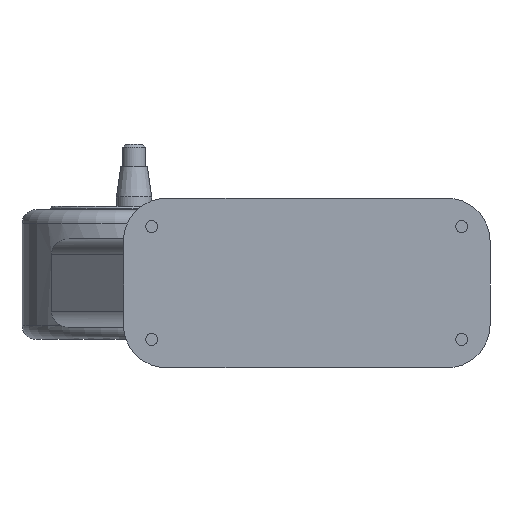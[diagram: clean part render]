
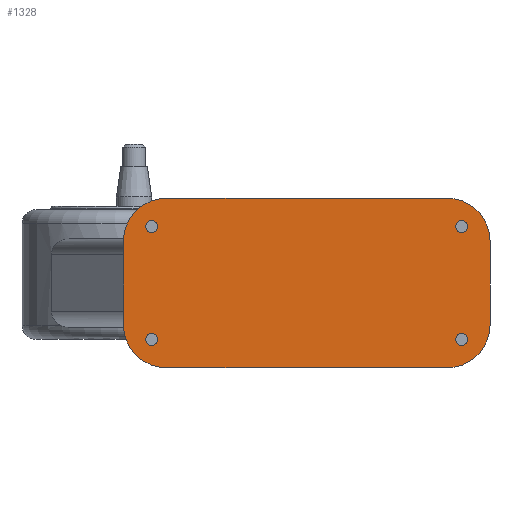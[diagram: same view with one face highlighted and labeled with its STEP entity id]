
A CAD part, front view. The second image highlights one B-rep face of the part: STEP entity #1328.
In plain terms, the highlighted planar face has unit normal (0, -1, 0).
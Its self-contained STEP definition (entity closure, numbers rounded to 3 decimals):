
#11 = ORIENTED_EDGE ( 'NONE', *, *, #2284, .T. ) ;
#15 = ORIENTED_EDGE ( 'NONE', *, *, #2022, .F. ) ;
#18 = VECTOR ( 'NONE', #1616, 1000. ) ;
#38 = ORIENTED_EDGE ( 'NONE', *, *, #347, .F. ) ;
#52 = CARTESIAN_POINT ( 'NONE',  ( 127.334, 0., 30. ) ) ;
#66 = CARTESIAN_POINT ( 'NONE',  ( -108.416, 0., 40. ) ) ;
#71 = LINE ( 'NONE', #363, #18 ) ;
#108 = LINE ( 'NONE', #919, #1520 ) ;
#117 = AXIS2_PLACEMENT_3D ( 'NONE', #1997, #934, #2175 ) ;
#152 = DIRECTION ( 'NONE',  ( 1., 0., 0. ) ) ;
#171 = EDGE_CURVE ( 'NONE', #337, #1251, #1357, .T. ) ;
#176 = CARTESIAN_POINT ( 'NONE',  ( -116.916, 0., -40. ) ) ;
#189 = FACE_BOUND ( 'NONE', #335, .T. ) ;
#192 = DIRECTION ( 'NONE',  ( 0., -1., 0. ) ) ;
#194 = EDGE_CURVE ( 'NONE', #2150, #1552, #350, .T. ) ;
#212 = CIRCLE ( 'NONE', #610, 4.25 ) ;
#311 = CARTESIAN_POINT ( 'NONE',  ( 111.584, 0., -40. ) ) ;
#325 = CIRCLE ( 'NONE', #1301, 4.25 ) ;
#335 = EDGE_LOOP ( 'NONE', ( #921, #513 ) ) ;
#337 = VERTEX_POINT ( 'NONE', #2192 ) ;
#347 = EDGE_CURVE ( 'NONE', #1879, #1087, #490, .T. ) ;
#350 = CIRCLE ( 'NONE', #1957, 4.25 ) ;
#358 = CARTESIAN_POINT ( 'NONE',  ( 97.334, 0., -60. ) ) ;
#363 = CARTESIAN_POINT ( 'NONE',  ( -132.666, 0., -60. ) ) ;
#374 = EDGE_CURVE ( 'NONE', #1542, #1367, #2274, .T. ) ;
#390 = DIRECTION ( 'NONE',  ( 0., -1., 0. ) ) ;
#391 = EDGE_LOOP ( 'NONE', ( #484, #1846 ) ) ;
#425 = CARTESIAN_POINT ( 'NONE',  ( 107.334, 0., -40. ) ) ;
#484 = ORIENTED_EDGE ( 'NONE', *, *, #1608, .F. ) ;
#490 = CIRCLE ( 'NONE', #1436, 4.25 ) ;
#496 = AXIS2_PLACEMENT_3D ( 'NONE', #1242, #192, #1424 ) ;
#505 = ORIENTED_EDGE ( 'NONE', *, *, #1390, .T. ) ;
#509 = DIRECTION ( 'NONE',  ( 0., 0., -1. ) ) ;
#513 = ORIENTED_EDGE ( 'NONE', *, *, #1002, .F. ) ;
#532 = PLANE ( 'NONE',  #622 ) ;
#543 = VERTEX_POINT ( 'NONE', #358 ) ;
#551 = EDGE_LOOP ( 'NONE', ( #505, #2285, #2293, #11, #1842, #901, #928, #1815 ) ) ;
#552 = CARTESIAN_POINT ( 'NONE',  ( -116.916, 0., 40. ) ) ;
#569 = CIRCLE ( 'NONE', #935, 4.25 ) ;
#580 = CARTESIAN_POINT ( 'NONE',  ( -112.666, 0., -40. ) ) ;
#584 = EDGE_CURVE ( 'NONE', #1174, #1012, #108, .T. ) ;
#593 = DIRECTION ( 'NONE',  ( 0., -1., 0. ) ) ;
#599 = CIRCLE ( 'NONE', #496, 30. ) ;
#608 = DIRECTION ( 'NONE',  ( 1., 0., 0. ) ) ;
#610 = AXIS2_PLACEMENT_3D ( 'NONE', #1462, #390, #1633 ) ;
#619 = DIRECTION ( 'NONE',  ( 0., -1., 0. ) ) ;
#622 = AXIS2_PLACEMENT_3D ( 'NONE', #1414, #1775, #712 ) ;
#659 = FACE_BOUND ( 'NONE', #1732, .T. ) ;
#677 = CARTESIAN_POINT ( 'NONE',  ( -132.666, 0., -30. ) ) ;
#681 = VERTEX_POINT ( 'NONE', #1943 ) ;
#712 = DIRECTION ( 'NONE',  ( -1., 0., 0. ) ) ;
#724 = CARTESIAN_POINT ( 'NONE',  ( -112.666, 0., 40. ) ) ;
#739 = AXIS2_PLACEMENT_3D ( 'NONE', #724, #1972, #907 ) ;
#742 = CARTESIAN_POINT ( 'NONE',  ( 127.334, 0., -30. ) ) ;
#749 = AXIS2_PLACEMENT_3D ( 'NONE', #1058, #2134, #2307 ) ;
#776 = EDGE_CURVE ( 'NONE', #1197, #681, #1234, .T. ) ;
#803 = CARTESIAN_POINT ( 'NONE',  ( -108.416, 0., -40. ) ) ;
#839 = CARTESIAN_POINT ( 'NONE',  ( 97.334, 0., 30. ) ) ;
#878 = LINE ( 'NONE', #1191, #2298 ) ;
#888 = AXIS2_PLACEMENT_3D ( 'NONE', #839, #2091, #1021 ) ;
#901 = ORIENTED_EDGE ( 'NONE', *, *, #930, .T. ) ;
#907 = DIRECTION ( 'NONE',  ( 1., 0., 0. ) ) ;
#919 = CARTESIAN_POINT ( 'NONE',  ( -132.666, 0., 60. ) ) ;
#921 = ORIENTED_EDGE ( 'NONE', *, *, #776, .F. ) ;
#928 = ORIENTED_EDGE ( 'NONE', *, *, #171, .T. ) ;
#930 = EDGE_CURVE ( 'NONE', #1174, #337, #1491, .T. ) ;
#934 = DIRECTION ( 'NONE',  ( 0., -1., 0. ) ) ;
#935 = AXIS2_PLACEMENT_3D ( 'NONE', #1683, #619, #1864 ) ;
#960 = VERTEX_POINT ( 'NONE', #52 ) ;
#1002 = EDGE_CURVE ( 'NONE', #681, #1197, #325, .T. ) ;
#1012 = VERTEX_POINT ( 'NONE', #2208 ) ;
#1021 = DIRECTION ( 'NONE',  ( -1., 0., 0. ) ) ;
#1058 = CARTESIAN_POINT ( 'NONE',  ( 107.334, 0., -40. ) ) ;
#1087 = VERTEX_POINT ( 'NONE', #803 ) ;
#1125 = FACE_BOUND ( 'NONE', #391, .T. ) ;
#1138 = DIRECTION ( 'NONE',  ( 1., 0., 0. ) ) ;
#1174 = VERTEX_POINT ( 'NONE', #1548 ) ;
#1180 = FACE_OUTER_BOUND ( 'NONE', #551, .T. ) ;
#1182 = EDGE_CURVE ( 'NONE', #960, #1457, #878, .T. ) ;
#1191 = CARTESIAN_POINT ( 'NONE',  ( 127.334, 0., 60. ) ) ;
#1197 = VERTEX_POINT ( 'NONE', #311 ) ;
#1211 = DIRECTION ( 'NONE',  ( 0., -1., 0. ) ) ;
#1234 = CIRCLE ( 'NONE', #749, 4.25 ) ;
#1237 = VECTOR ( 'NONE', #509, 1000. ) ;
#1242 = CARTESIAN_POINT ( 'NONE',  ( 97.334, 0., -30. ) ) ;
#1251 = VERTEX_POINT ( 'NONE', #677 ) ;
#1301 = AXIS2_PLACEMENT_3D ( 'NONE', #425, #1664, #608 ) ;
#1316 = VERTEX_POINT ( 'NONE', #2308 ) ;
#1321 = CARTESIAN_POINT ( 'NONE',  ( 103.084, 0., 40. ) ) ;
#1328 = ADVANCED_FACE ( 'NONE', ( #659, #189, #1125, #2021, #1180 ), #532, .F. ) ;
#1330 = EDGE_CURVE ( 'NONE', #543, #1457, #599, .T. ) ;
#1357 = LINE ( 'NONE', #1686, #1237 ) ;
#1360 = EDGE_CURVE ( 'NONE', #1367, #1542, #1490, .T. ) ;
#1367 = VERTEX_POINT ( 'NONE', #552 ) ;
#1370 = CIRCLE ( 'NONE', #888, 30. ) ;
#1371 = ORIENTED_EDGE ( 'NONE', *, *, #1360, .F. ) ;
#1374 = DIRECTION ( 'NONE',  ( 0., 0., -1. ) ) ;
#1390 = EDGE_CURVE ( 'NONE', #1316, #543, #71, .T. ) ;
#1414 = CARTESIAN_POINT ( 'NONE',  ( -132.666, 0., 60. ) ) ;
#1424 = DIRECTION ( 'NONE',  ( -1., 0., 0. ) ) ;
#1436 = AXIS2_PLACEMENT_3D ( 'NONE', #580, #1828, #2030 ) ;
#1457 = VERTEX_POINT ( 'NONE', #742 ) ;
#1462 = CARTESIAN_POINT ( 'NONE',  ( -112.666, 0., -40. ) ) ;
#1490 = CIRCLE ( 'NONE', #739, 4.25 ) ;
#1491 = CIRCLE ( 'NONE', #117, 30. ) ;
#1520 = VECTOR ( 'NONE', #1989, 1000. ) ;
#1525 = EDGE_CURVE ( 'NONE', #1251, #1316, #1795, .T. ) ;
#1542 = VERTEX_POINT ( 'NONE', #66 ) ;
#1548 = CARTESIAN_POINT ( 'NONE',  ( -102.666, 0., 60. ) ) ;
#1552 = VERTEX_POINT ( 'NONE', #1661 ) ;
#1556 = AXIS2_PLACEMENT_3D ( 'NONE', #2036, #2206, #1138 ) ;
#1608 = EDGE_CURVE ( 'NONE', #1552, #2150, #569, .T. ) ;
#1616 = DIRECTION ( 'NONE',  ( 1., 0., 0. ) ) ;
#1633 = DIRECTION ( 'NONE',  ( 1., 0., 0. ) ) ;
#1655 = CARTESIAN_POINT ( 'NONE',  ( -102.666, 0., -30. ) ) ;
#1661 = CARTESIAN_POINT ( 'NONE',  ( 111.584, 0., 40. ) ) ;
#1664 = DIRECTION ( 'NONE',  ( 0., -1., 0. ) ) ;
#1683 = CARTESIAN_POINT ( 'NONE',  ( 107.334, 0., 40. ) ) ;
#1686 = CARTESIAN_POINT ( 'NONE',  ( -132.666, 0., 60. ) ) ;
#1732 = EDGE_LOOP ( 'NONE', ( #15, #38 ) ) ;
#1759 = EDGE_LOOP ( 'NONE', ( #2029, #1371 ) ) ;
#1775 = DIRECTION ( 'NONE',  ( 0., 1., 0. ) ) ;
#1795 = CIRCLE ( 'NONE', #2288, 30. ) ;
#1815 = ORIENTED_EDGE ( 'NONE', *, *, #1525, .T. ) ;
#1828 = DIRECTION ( 'NONE',  ( 0., -1., 0. ) ) ;
#1838 = DIRECTION ( 'NONE',  ( -1., 0., 0. ) ) ;
#1842 = ORIENTED_EDGE ( 'NONE', *, *, #584, .F. ) ;
#1846 = ORIENTED_EDGE ( 'NONE', *, *, #194, .F. ) ;
#1864 = DIRECTION ( 'NONE',  ( 1., 0., 0. ) ) ;
#1879 = VERTEX_POINT ( 'NONE', #176 ) ;
#1943 = CARTESIAN_POINT ( 'NONE',  ( 103.084, 0., -40. ) ) ;
#1957 = AXIS2_PLACEMENT_3D ( 'NONE', #2280, #1211, #152 ) ;
#1972 = DIRECTION ( 'NONE',  ( 0., -1., 0. ) ) ;
#1989 = DIRECTION ( 'NONE',  ( 1., 0., 0. ) ) ;
#1997 = CARTESIAN_POINT ( 'NONE',  ( -102.666, 0., 30. ) ) ;
#2021 = FACE_BOUND ( 'NONE', #1759, .T. ) ;
#2022 = EDGE_CURVE ( 'NONE', #1087, #1879, #212, .T. ) ;
#2029 = ORIENTED_EDGE ( 'NONE', *, *, #374, .F. ) ;
#2030 = DIRECTION ( 'NONE',  ( 1., 0., 0. ) ) ;
#2036 = CARTESIAN_POINT ( 'NONE',  ( -112.666, 0., 40. ) ) ;
#2091 = DIRECTION ( 'NONE',  ( 0., -1., 0. ) ) ;
#2134 = DIRECTION ( 'NONE',  ( 0., -1., 0. ) ) ;
#2150 = VERTEX_POINT ( 'NONE', #1321 ) ;
#2175 = DIRECTION ( 'NONE',  ( -1., 0., 0. ) ) ;
#2192 = CARTESIAN_POINT ( 'NONE',  ( -132.666, 0., 30. ) ) ;
#2206 = DIRECTION ( 'NONE',  ( 0., -1., 0. ) ) ;
#2208 = CARTESIAN_POINT ( 'NONE',  ( 97.334, 0., 60. ) ) ;
#2274 = CIRCLE ( 'NONE', #1556, 4.25 ) ;
#2280 = CARTESIAN_POINT ( 'NONE',  ( 107.334, 0., 40. ) ) ;
#2284 = EDGE_CURVE ( 'NONE', #960, #1012, #1370, .T. ) ;
#2285 = ORIENTED_EDGE ( 'NONE', *, *, #1330, .T. ) ;
#2288 = AXIS2_PLACEMENT_3D ( 'NONE', #1655, #593, #1838 ) ;
#2293 = ORIENTED_EDGE ( 'NONE', *, *, #1182, .F. ) ;
#2298 = VECTOR ( 'NONE', #1374, 1000. ) ;
#2307 = DIRECTION ( 'NONE',  ( 1., 0., 0. ) ) ;
#2308 = CARTESIAN_POINT ( 'NONE',  ( -102.666, 0., -60. ) ) ;
